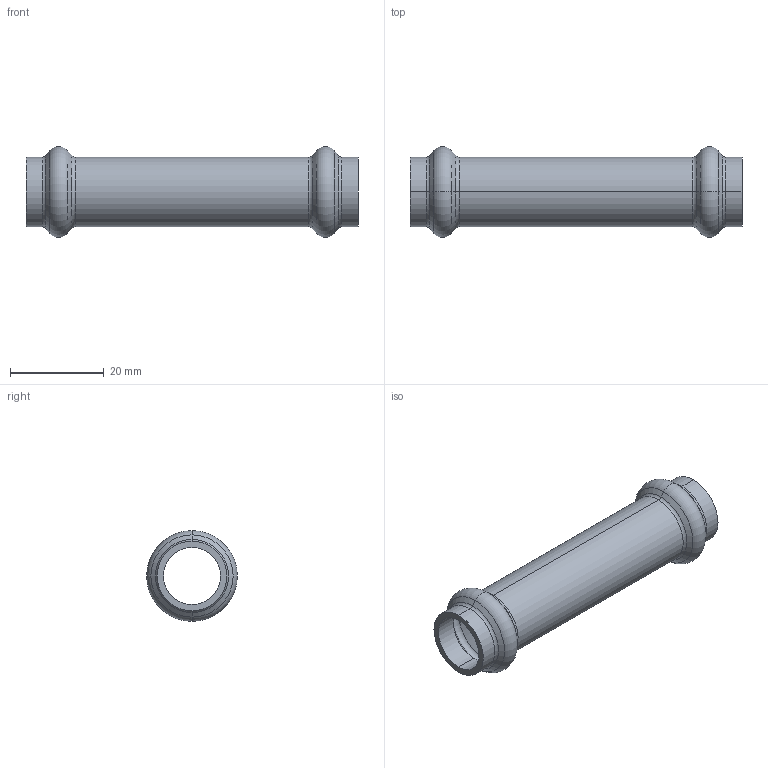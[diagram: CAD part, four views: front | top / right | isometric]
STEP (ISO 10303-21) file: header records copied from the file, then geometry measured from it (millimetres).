
FILE_DESCRIPTION (( 'STEP AP203' ), '1' );
FILE_NAME ('SP5275 12.STEP', '2017-04-24T09:21:07', ( '' ), ( '' ), 'SwSTEP 2.0', 'SolidWorks 2016', '' );
FILE_SCHEMA (( 'CONFIG_CONTROL_DESIGN' ));
Length unit declared in the file: millimetre
Products named in the file (1): SP5275 12
Bounding box: 71 x 19.4 x 19.4 mm (x, y, z)
Volume: 4467.9 mm3; surface area: 6713.8 mm2
Topology: 1 solids, 1 shells, 46 faces, 92 edges, 48 vertices
Faces by surface type: torus 16, cone 16, cylinder 12, plane 2
Entity records: 1261 total; most frequent: DIRECTION 250, CARTESIAN_POINT 187, ORIENTED_EDGE 184, AXIS2_PLACEMENT_3D 111, EDGE_CURVE 92, CIRCLE 64, VERTEX_POINT 48, EDGE_LOOP 48
